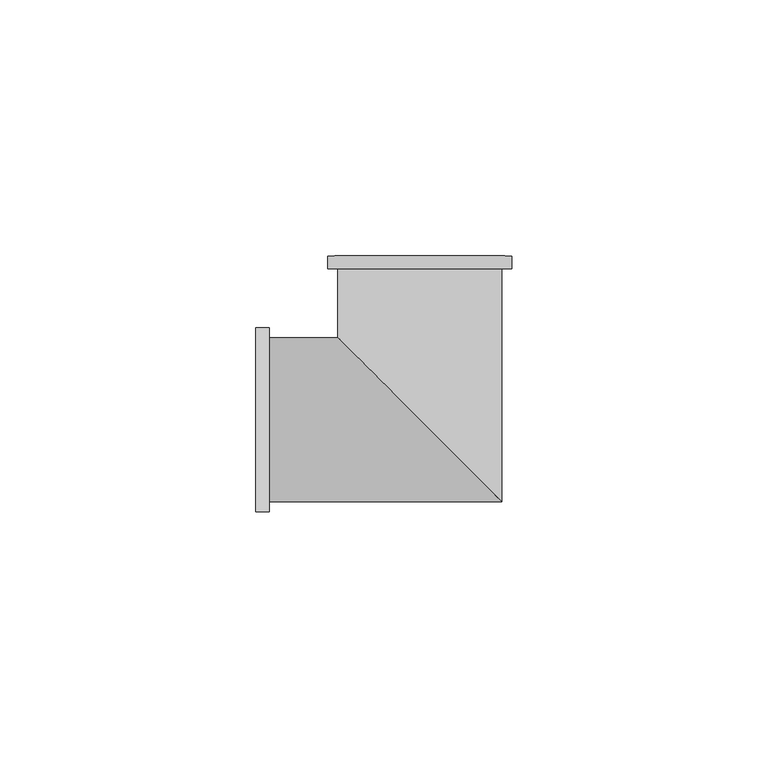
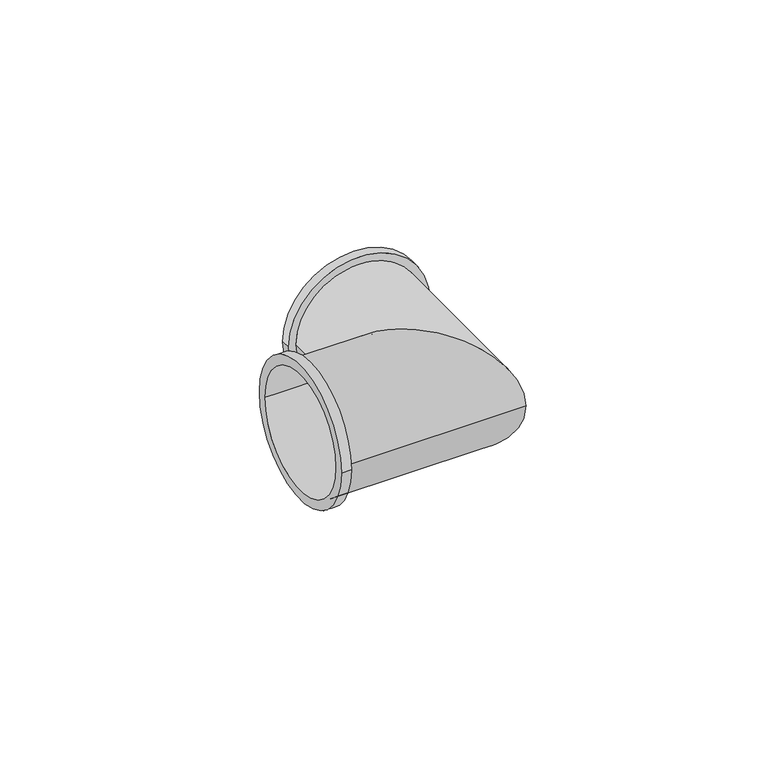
"""IFC4 building model written with IfcOpenShell, lengths in millimetres: pipe fitting geometry, БИР ПЕКС_НПР_Угольник ПЕКС 90 : Угольник ПЕКС 90°."""

import ifcopenshell
import ifcopenshell.guid

model = None  # the IFC model being written
_history = None  # IfcOwnerHistory: only IFC2X3 demands one
_inside = {}  # id of a spatial element -> (the spatial element, [elements in it])
_under = {}  # id of a project, library or spatial element -> (it, [spatial elements below it])
_declared = {}  # id of a project -> (the project, [libraries it declares])
_typed = {}  # id of a type object -> (the type object, [elements of that type])
_made_of = {}  # id of a material, layer set ... -> (it, [elements and type objects made of it])


def new_model(schema):
    """Start an empty IFC model of exactly this schema.

    Asked for "IFC4X3", IfcOpenShell would pick the latest addendum, in which some entities
    have other attributes; the version numbers below select the first issue.
    IFC2X3 requires an IfcOwnerHistory on every rooted entity: one is made here for all.
    """
    global model, _history
    if schema == "IFC4X3":
        model = ifcopenshell.file(schema_version=(4, 3, 0, 0))
    else:
        model = ifcopenshell.file(schema=schema)
    _inside.clear()
    _under.clear()
    _declared.clear()
    _typed.clear()
    _made_of.clear()
    _history = None
    if model.schema == "IFC2X3":
        org = make("IfcOrganization", Name="unknown")
        user = make(
            "IfcPersonAndOrganization",
            ThePerson=make("IfcPerson", FamilyName="unknown"),
            TheOrganization=org,
        )
        app = make(
            "IfcApplication",
            ApplicationDeveloper=org,
            Version="unknown",
            ApplicationFullName="unknown",
            ApplicationIdentifier="unknown",
        )
        _history = make(
            "IfcOwnerHistory",
            OwningUser=user,
            OwningApplication=app,
            ChangeAction="ADDED",
            CreationDate=0,
        )
    return model


def make(cls, **values):
    """One entity of the class cls with the attributes given. An attribute that is None is left unset."""
    return model.create_entity(
        cls, **{name: value for name, value in values.items() if value is not None}
    )


def rooted(cls, **values):
    """An entity with a GlobalId (a new one), such as an element, a storey or a relation."""
    return make(cls, GlobalId=ifcopenshell.guid.new(), OwnerHistory=_history, **values)


def si_unit(unit_type, name, prefix=None):
    """IfcSIUnit, for example si_unit("LENGTHUNIT", "METRE", prefix="MILLI")."""
    return make("IfcSIUnit", UnitType=unit_type, Prefix=prefix, Name=name)


def assignment(units):
    """IfcUnitAssignment: the units of a project."""
    return None if units is None else make("IfcUnitAssignment", Units=units)


def point(xyz):
    """IfcCartesianPoint."""
    return None if xyz is None else make("IfcCartesianPoint", Coordinates=xyz)


def direction(xyz):
    """IfcDirection."""
    return None if xyz is None else make("IfcDirection", DirectionRatios=xyz)


def frame(location, z_axis=None, x_axis=None):
    """IfcAxis2Placement3D, a coordinate frame: its origin and axes. An axis left out is left unset."""
    return make(
        "IfcAxis2Placement3D",
        Location=point(location),
        Axis=direction(z_axis),
        RefDirection=direction(x_axis),
    )


def origin():
    """The frame at (0, 0, 0) with its axes left unset."""
    return frame((0.0, 0.0, 0.0))


def place(relative_to, where):
    """IfcLocalPlacement: puts the frame where relative to a parent placement (None: the world)."""
    return make(
        "IfcLocalPlacement", PlacementRelTo=relative_to, RelativePlacement=where
    )


def context(
    kind, dimensions, precision=None, world=None, true_north=None, identifier=None
):
    """IfcGeometricRepresentationContext, for example the 3D "Model" context."""
    return make(
        "IfcGeometricRepresentationContext",
        ContextIdentifier=identifier,
        ContextType=kind,
        CoordinateSpaceDimension=dimensions,
        Precision=precision,
        WorldCoordinateSystem=world,
        TrueNorth=true_north,
    )


def project(units=None, contexts=None):
    """IfcProject with its units and contexts."""
    return rooted(
        "IfcProject",
        Name="project",
        RepresentationContexts=contexts,
        UnitsInContext=assignment(units),
    )


def spatial(cls, under=None, at=None, **own):
    """A site, building, storey or space (cls), placed at a placement, below another one or the project."""
    s = rooted(cls, ObjectPlacement=at, **own)
    if under is not None:
        _under.setdefault(under.id(), (under, []))[1].append(s)
    return s


def polyline(points):
    """IfcPolyline through the points."""
    return make("IfcPolyline", Points=[point(p) for p in points])


def circle_curve(where, radius):
    """IfcCircle in the frame where."""
    return make("IfcCircle", Position=where, Radius=radius)


def ellipse_curve(where, semi_axis1, semi_axis2):
    """IfcEllipse in the frame where."""
    return make(
        "IfcEllipse", Position=where, SemiAxis1=semi_axis1, SemiAxis2=semi_axis2
    )


def shape(context_of_items, identifier, shape_type, items):
    """IfcShapeRepresentation: the items that make up one representation, for example the "Body"."""
    return make(
        "IfcShapeRepresentation",
        ContextOfItems=context_of_items,
        RepresentationIdentifier=identifier,
        RepresentationType=shape_type,
        Items=items,
    )


def source(mapping_origin, context_of_items, identifier, shape_type, items):
    """IfcRepresentationMap: a shape defined once, which mapped items show again and again."""
    return make(
        "IfcRepresentationMap",
        MappingOrigin=mapping_origin,
        MappedRepresentation=shape(context_of_items, identifier, shape_type, items),
    )


def transform(
    local_origin,
    x_axis=None,
    y_axis=None,
    z_axis=None,
    scale=None,
    scale2=None,
    scale3=None,
    uniform=True,
):
    """IfcCartesianTransformationOperator3D, or its non-uniform kind. x_axis, y_axis, z_axis: its Axis1, 2, 3."""
    if uniform:
        return make(
            "IfcCartesianTransformationOperator3D",
            Axis1=direction(x_axis),
            Axis2=direction(y_axis),
            LocalOrigin=point(local_origin),
            Scale=scale,
            Axis3=direction(z_axis),
        )
    return make(
        "IfcCartesianTransformationOperator3DnonUniform",
        Axis1=direction(x_axis),
        Axis2=direction(y_axis),
        LocalOrigin=point(local_origin),
        Scale=scale,
        Axis3=direction(z_axis),
        Scale2=scale2,
        Scale3=scale3,
    )


def mapped(mapping_source, mapping_target):
    """IfcMappedItem: shows the shape of a source again, moved by a transform."""
    return make(
        "IfcMappedItem", MappingSource=mapping_source, MappingTarget=mapping_target
    )


def made_of(thing, what):
    """Note that an element or type object is made of a material, layer set ...; save() writes the relation."""
    if what is not None:
        _made_of.setdefault(what.id(), (what, []))[1].append(thing)
    return thing


def element(
    cls,
    number,
    at=None,
    inside=None,
    cuts=None,
    type_object=None,
    material=None,
    context=None,
    identifier="Body",
    shape_type=None,
    held_by="IfcProductDefinitionShape",
    body=None,
    shapes=None,
    **own,
):
    """One element of the class cls, such as IfcWall. Its Tag is "e" and its number.

    at: its placement. inside: the storey or other place that contains it. cuts: it is an
    opening in that element (IfcRelVoidsElement). A single representation is given by context,
    identifier, shape_type and body (its items); several are given by shapes. held_by: the class
    of the entity that holds the representations. save() writes the other relations.
    """
    e = rooted(cls, Tag="e%d" % number, ObjectPlacement=at, **own)
    if body is not None:
        shapes = [shape(context, identifier, shape_type, body)]
    if shapes is not None:
        e.Representation = make(held_by, Representations=shapes)
    if inside is not None:
        _inside.setdefault(inside.id(), (inside, []))[1].append(e)
    if cuts is not None:
        rooted(
            "IfcRelVoidsElement", RelatingBuildingElement=cuts, RelatedOpeningElement=e
        )
    if type_object is not None:
        _typed.setdefault(type_object.id(), (type_object, []))[1].append(e)
    return made_of(e, material)


def aggregate(whole, parts):
    """IfcRelAggregates: a whole, such as a stair, and the parts it consists of."""
    return rooted("IfcRelAggregates", RelatingObject=whole, RelatedObjects=parts)


def save(model, path):
    """Write the relations noted so far, then the file.

    IfcRelAggregates (storeys below a building ...), IfcRelContainedInSpatialStructure (elements
    in a storey), IfcRelDefinesByType, IfcRelAssociatesMaterial and IfcRelDeclares: one each for
    every whole, place, type object, material and project.
    """
    for whole, parts in _under.values():
        aggregate(whole, parts)
    for where, things in _inside.values():
        rooted(
            "IfcRelContainedInSpatialStructure",
            RelatedElements=things,
            RelatingStructure=where,
        )
    for kind, things in _typed.values():
        rooted("IfcRelDefinesByType", RelatedObjects=things, RelatingType=kind)
    for what, things in _made_of.values():
        rooted("IfcRelAssociatesMaterial", RelatedObjects=things, RelatingMaterial=what)
    for by, libraries in _declared.values():
        rooted("IfcRelDeclares", RelatingContext=by, RelatedDefinitions=libraries)
    model.write(path)


def plane_surface(at):
    """IfcPlane: the flat surface through the origin of the frame at, square to its z axis."""
    return make("IfcPlane", Position=at)


def cylinder_surface(at, radius):
    """IfcCylindricalSurface: all points at the distance radius from the z axis of the frame at."""
    return make("IfcCylindricalSurface", Position=at, Radius=radius)


def revolved_surface(curve, axis_point, axis_direction):
    """IfcSurfaceOfRevolution: the curve turned about the line through axis_point along axis_direction."""
    return make(
        "IfcSurfaceOfRevolution",
        SweptCurve=make("IfcArbitraryOpenProfileDef", ProfileType="CURVE", Curve=curve),
        AxisPosition=make("IfcAxis1Placement", Location=point(axis_point), Axis=direction(axis_direction)),
    )


def advanced_brep(points, edges, surfaces, faces):
    """IfcAdvancedBrep: a solid bounded by faces that lie on surfaces and meet in shared edges.

    An edge is (start, end): straight between two places in points (the first is 0);
    or (start, end, curve); or (start, end, curve, False) where it runs against its curve.
    A face is (place in surfaces, loops), or (place, loops, False) where it looks against
    its surface's normal. A loop lists edges by number (the first is 1), with a minus sign
    where the edge is run from its end to its start. The first loop is the outer one.
    """
    corners = [point(p) for p in points]
    vertices = [make("IfcVertexPoint", VertexGeometry=c) for c in corners]
    made = []
    for start, end, *more in edges:
        made.append(
            make(
                "IfcEdgeCurve",
                EdgeStart=vertices[start],
                EdgeEnd=vertices[end],
                EdgeGeometry=more[0] if more else make("IfcPolyline", Points=[corners[start], corners[end]]),
                SameSense=more[1] if len(more) > 1 else True,
            )
        )
    hull = []
    for where, loops, *sense in faces:
        bounds = []
        for j, loop in enumerate(loops):
            ring = [make("IfcOrientedEdge", EdgeElement=made[abs(k) - 1], Orientation=k > 0) for k in loop]
            bounds.append(
                make(
                    "IfcFaceOuterBound" if j == 0 else "IfcFaceBound",
                    Bound=make("IfcEdgeLoop", EdgeList=ring),
                    Orientation=True,
                )
            )
        hull.append(make("IfcAdvancedFace", Bounds=bounds, FaceSurface=surfaces[where], SameSense=sense[0] if sense else True))
    return make("IfcAdvancedBrep", Outer=make("IfcClosedShell", CfsFaces=hull))


def pipe_fitting_7518d13b(model_context):
    return source(origin(), model_context, "Body", "AdvancedBrep", [
        advanced_brep(
        [(-32.0, -18.0, 0.0), (-32.0, 18.0, 0.0), (-32.0, -15.5, 0.0), (-32.0, 15.5, 0.0), (16.0, -16.0, 0.0), (-16.0, 16.0, 0.0), (-29.4507177, 16.0, 0.0), (-29.4507177, -16.0, 0.0), (-18.0, 32.0, 0.0), (18.0, 32.0, 0.0), (15.5, 32.0, 0.0), (-15.5, 32.0, 0.0), (16.0, 29.5, 0.0), (-16.0, 29.5, 0.0), (-29.4507177, -18.0, 0.0), (-29.4507177, 18.0, 0.0), (-18.0, 29.5, 0.0), (18.0, 29.5, 0.0), (-29.4507177, -15.5, 0.0), (15.5, -15.5, 0.0), (-15.5, 15.5, 0.0), (-29.4507177, 15.5, 0.0), (-15.5, 29.5, 0.0), (15.5, 29.5, 0.0)],
        [
            (0, 1, circle_curve(frame((-32.0, 0.0, 0.0), z_axis=(-1.0, 0.0, 0.0), x_axis=(0.0, 1.0, 0.0)), 18.0)),
            (1, 0, circle_curve(frame((-32.0, 0.0, 0.0), z_axis=(-1.0, 0.0, 0.0), x_axis=(0.0, 1.0, 0.0)), 18.0)),
            (2, 3, circle_curve(frame((-32.0, 0.0, 0.0), z_axis=(1.0, 0.0, 0.0), x_axis=(0.0, 1.0, 0.0)), 15.5)),
            (3, 2, circle_curve(frame((-32.0, 0.0, 0.0), z_axis=(1.0, 0.0, 0.0), x_axis=(0.0, 1.0, 0.0)), 15.5)),
            (4, 5, ellipse_curve(frame((0.0, 0.0, 0.0), z_axis=(-0.7071067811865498, -0.7071067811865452, 0.0), x_axis=(-0.7071067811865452, 0.7071067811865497, 0.0)), 22.627417, 16.0)),
            (5, 6),
            (6, 7, circle_curve(frame((-29.4507177, 0.0, 0.0), z_axis=(1.0, 0.0, 0.0), x_axis=(0.0, 1.0, 0.0)), 16.0)),
            (7, 4),
            (5, 4, ellipse_curve(frame((0.0, 0.0, 0.0), z_axis=(-0.7071067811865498, -0.7071067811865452, 0.0), x_axis=(-0.7071067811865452, 0.7071067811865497, 0.0)), 22.627417, 16.0)),
            (7, 6, circle_curve(frame((-29.4507177, 0.0, 0.0), z_axis=(1.0, 0.0, 0.0), x_axis=(0.0, 1.0, 0.0)), 16.0)),
            (8, 9, circle_curve(frame((0.0, 32.0, 0.0), z_axis=(0.0, 1.0, 0.0), x_axis=(1.0, 0.0, 0.0)), 18.0)),
            (9, 8, circle_curve(frame((0.0, 32.0, 0.0), z_axis=(0.0, 1.0, 0.0), x_axis=(1.0, 0.0, 0.0)), 18.0)),
            (10, 11, circle_curve(frame((0.0, 32.0, 0.0), z_axis=(0.0, -1.0, 0.0), x_axis=(-1.0, 0.0, 0.0)), 15.5)),
            (11, 10, circle_curve(frame((0.0, 32.0, 0.0), z_axis=(0.0, -1.0, 0.0), x_axis=(-1.0, 0.0, 0.0)), 15.5)),
            (4, 12),
            (12, 13, circle_curve(frame((0.0, 29.5, 0.0), z_axis=(0.0, -1.0, 0.0), x_axis=(-1.0, 0.0, 0.0)), 16.0)),
            (13, 5),
            (13, 12, circle_curve(frame((0.0, 29.5, 0.0), z_axis=(0.0, -1.0, 0.0), x_axis=(-1.0, 0.0, 0.0)), 16.0)),
            (14, 15, circle_curve(frame((-29.4507177, 0.0, 0.0), z_axis=(1.0, 0.0, 0.0), x_axis=(0.0, 1.0, 0.0)), 18.0)),
            (15, 14, circle_curve(frame((-29.4507177, 0.0, 0.0), z_axis=(1.0, 0.0, 0.0), x_axis=(0.0, 1.0, 0.0)), 18.0)),
            (14, 0),
            (1, 15),
            (16, 17, circle_curve(frame((0.0, 29.5, 0.0), z_axis=(0.0, -1.0, 0.0), x_axis=(1.0, 0.0, 0.0)), 18.0)),
            (17, 16, circle_curve(frame((0.0, 29.5, 0.0), z_axis=(0.0, -1.0, 0.0), x_axis=(1.0, 0.0, 0.0)), 18.0)),
            (16, 8),
            (9, 17),
            (2, 18),
            (18, 19),
            (19, 20, ellipse_curve(frame((0.0, 0.0, 0.0), z_axis=(0.7071067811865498, 0.7071067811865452, 0.0), x_axis=(0.7071067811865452, -0.7071067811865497, 0.0)), 21.9203102, 15.5)),
            (20, 21),
            (21, 3),
            (20, 19, ellipse_curve(frame((0.0, 0.0, 0.0), z_axis=(0.7071067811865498, 0.7071067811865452, 0.0), x_axis=(0.7071067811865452, -0.7071067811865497, 0.0)), 21.9203102, 15.5)),
            (11, 22),
            (22, 20),
            (19, 23),
            (23, 10),
        ],
        [
            plane_surface(frame((-32.0, 0.0, 0.0), z_axis=(-1.0, 0.0, 0.0), x_axis=(0.0, 0.0, 1.0))),
            cylinder_surface(frame((-32.0, 0.0, 0.0), z_axis=(-1.0, 0.0, 0.0), x_axis=(0.0, 1.0, 0.0)), 16.0),
            plane_surface(frame((0.0, 32.0, 0.0), z_axis=(0.0, 1.0, 0.0), x_axis=(0.0, 0.0, 1.0))),
            cylinder_surface(frame((0.0, 0.0, 0.0), z_axis=(0.0, -1.0, 0.0), x_axis=(-1.0, 0.0, 0.0)), 16.0),
            plane_surface(frame((-29.4507177, 18.0, 0.0), z_axis=(1.0, 0.0, 0.0), x_axis=(0.0, 0.0, 1.0))),
            cylinder_surface(frame((-32.0, 0.0, 0.0), z_axis=(1.0, 0.0, 0.0), x_axis=(0.0, 1.0, 0.0)), 18.0),
            plane_surface(frame((18.0, 29.5, 0.0), z_axis=(0.0, -1.0, 0.0), x_axis=(0.0, 0.0, 1.0))),
            cylinder_surface(frame((0.0, 32.0, 0.0), z_axis=(0.0, -1.0, 0.0), x_axis=(1.0, 0.0, 0.0)), 18.0),
            revolved_surface(polyline([(15.5, 15.5, 0.0), (-32.0, 15.5, 0.0)]), (-32.0, 0.0, 0.0), (1.0, 0.0, 0.0)),
            revolved_surface(polyline([(-15.5, 32.0, 0.0), (-15.5, -15.5, 0.0)]), (0.0, 0.0, 0.0), (0.0, 1.0, 0.0)),
        ],
        [
            (0, [[1, 2], [3, 4]]),
            (1, [[5, 6, 7, 8]]),
            (1, [[9, -8, 10, -6]]),
            (2, [[11, 12], [13, 14]]),
            (3, [[-5, 15, 16, 17]]),
            (3, [[-9, -17, 18, -15]]),
            (4, [[19, 20], [-7, -10]]),
            (5, [[-19, 21, -2, 22]]),
            (5, [[-20, -22, -1, -21]]),
            (6, [[23, 24], [-16, -18]]),
            (7, [[-23, 25, -12, 26]]),
            (7, [[-24, -26, -11, -25]]),
            (8, [[-3, 27, 28, 29, 30, 31]]),
            (8, [[-4, -31, -30, 32, -28, -27]]),
            (9, [[-14, 33, 34, -29, 35, 36]]),
            (9, [[-13, -36, -35, -32, -34, -33]]),
        ],
    ),
    ])


if __name__ == "__main__":
    model = new_model("IFC4")
    model_context = context("Model", 3, world=origin())
    ifc_project = project(units=[si_unit("LENGTHUNIT", "METRE", prefix="MILLI")], contexts=[model_context])
    site = spatial("IfcSite", under=ifc_project)
    building = spatial("IfcBuilding", under=site)
    placement = place(None, origin())
    pipe_fitting_shape = pipe_fitting_7518d13b(model_context)
    element("IfcPipeFitting", 1, ObjectType="БИР ПЕКС_НПР_Угольник ПЕКС 90 : Угольник ПЕКС 90°", at=placement, inside=building, context=model_context, shape_type="MappedRepresentation", body=[
        mapped(pipe_fitting_shape, transform((0.0, 0.0, 0.0), x_axis=(1.0, 0.0, 0.0), y_axis=(0.0, 1.0, 0.0), z_axis=(0.0, 0.0, 1.0))),
    ])
    save(model, "model.ifc")
